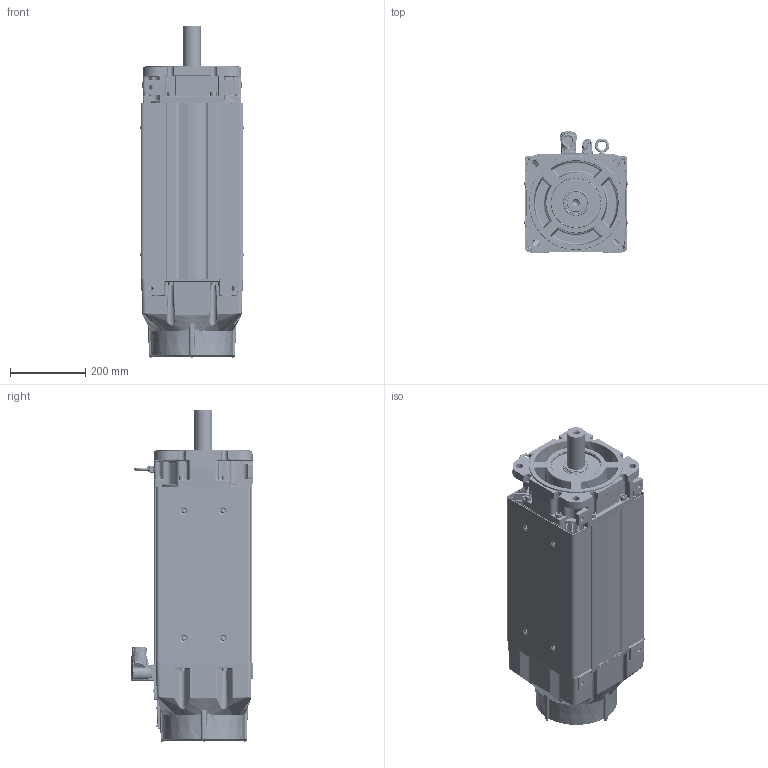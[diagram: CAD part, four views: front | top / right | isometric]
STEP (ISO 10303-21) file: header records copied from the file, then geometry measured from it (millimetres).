
FILE_DESCRIPTION((''),'2;1');
FILE_NAME('VPC-B30049-SK74FX_ASM','2016-09-27T',('SRGaddam'),('Rockwell Automation'),'PRO/ENGINEER BY PARAMETRIC TECHNOLOGY CORPORATION, 2012480','PRO/ENGINEER BY PARAMETRIC TECHNOLOGY CORPORATION, 2012480','');
FILE_SCHEMA(('CONFIG_CONTROL_DESIGN'));
Products named in the file (41): 10001404634_AF0; 10001404629_AF6; 10001404635_ASM; 10001585735; 10001441960; 10001737030; 10001448102; 10001587021; 10001405269_AF12; 10001405240_AF25; 10001405367_ASM; 10001946256; 10001956852; 10001989665; 10001713549_ASM; M4X7X14-SOCHD-CAP-SCR; 10001978970; 10001336508; 10001587431; CH4X063; 10001299929; 10001284567; 10000172464; 10001445961; 221404-Q12; 10000231113; 10002279234; 10001443420_ASM; 10001609981; 0002-5004; 10001586887; 10001439756; 142403; 125284; 142403-1_ASM; M940_ASM; 142414_623; 135798_623; 142414-1_623_ASM; M623_ASM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
Assembly tree (80 placements, depth 4):
  VPC-B30049-SK74FX_ASM
    10001404635_ASM
      10001404634_AF0
      10001404629_AF6
    10001585735  x8
    10001441960
    10001737030
    10001448102  x2
    10001587021  x8
    10001405367_ASM
      10001405269_AF12
      10001405240_AF25
    10001443420_ASM
      10001946256
      10001713549_ASM
        10001956852
        10001989665
      M4X7X14-SOCHD-CAP-SCR  x4
      10001978970
      10001336508
      10001587431
      CH4X063  x2
      10001299929
      10001284567
      10000172464  x4
      10001445961
      221404-Q12  x5
      10000231113
      10002279234
    10001609981
    0002-5004  x2
    10001586887  x6
    10001439756
    M940_ASM
      142403-1_ASM
        142403
        125284
      221404-Q12  x4
    M623_ASM
      142414-1_623_ASM
        142414_623
        135798_623
      10000172464  x4
Bounding box: 275.91 x 324.15 x 882.35 mm (x, y, z)
Volume: 13888238.4 mm3; surface area: 3572883.7 mm2
Topology: 84 solids, 85 shells, 8030 faces, 19055 edges, 11451 vertices
Faces by surface type: cylinder 2443, plane 2239, bspline 1318, cone 1199, torus 683, sphere 142, extrusion 6
Entity records: 223169 total; most frequent: CARTESIAN_POINT 95104, ORIENTED_EDGE 27452, DIRECTION 25269, EDGE_CURVE 13726, AXIS2_PLACEMENT_3D 9754, VERTEX_POINT 8497, EDGE_LOOP 6191, VECTOR 5761
